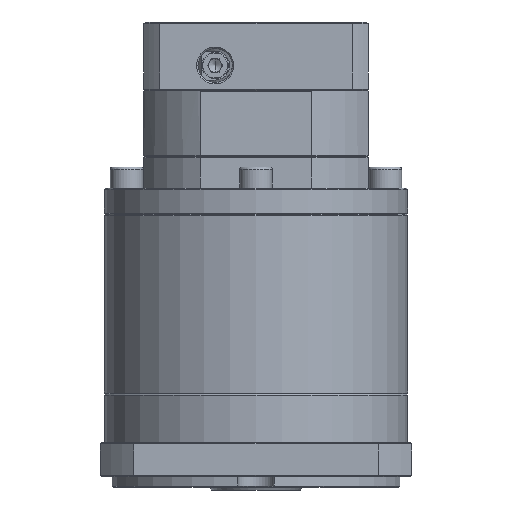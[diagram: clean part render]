
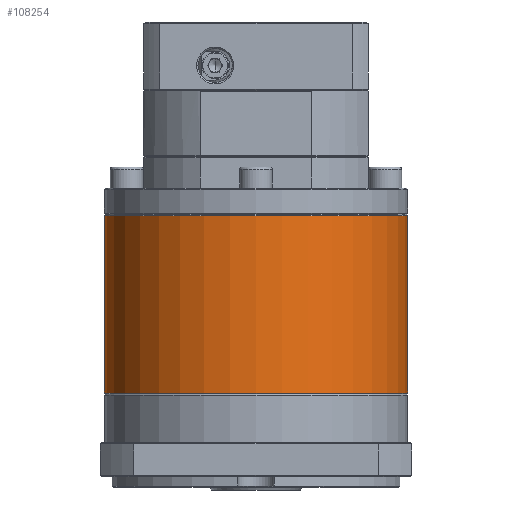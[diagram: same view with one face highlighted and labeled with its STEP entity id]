
A CAD part, front view. The second image highlights one B-rep face of the part: STEP entity #108254.
In plain terms, the highlighted cylindrical face has radius 57.5 mm (diameter 115 mm), a partial arc.
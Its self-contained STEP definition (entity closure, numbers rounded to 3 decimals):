
#1290 = CIRCLE ( 'NONE', #54193, 57.5 ) ;
#2065 = VERTEX_POINT ( 'NONE', #112048 ) ;
#16484 = ORIENTED_EDGE ( 'NONE', *, *, #40158, .T. ) ;
#16579 = CIRCLE ( 'NONE', #56621, 57.5 ) ;
#18468 = EDGE_CURVE ( 'NONE', #2065, #36935, #113877, .T. ) ;
#19227 = DIRECTION ( 'NONE',  ( 0., 0., -1. ) ) ;
#27160 = ORIENTED_EDGE ( 'NONE', *, *, #98504, .T. ) ;
#27187 = VERTEX_POINT ( 'NONE', #56386 ) ;
#30138 = CARTESIAN_POINT ( 'NONE',  ( 127.947, 93.009, -42.811 ) ) ;
#30189 = EDGE_LOOP ( 'NONE', ( #97913, #27160, #16484, #67251, #63037 ) ) ;
#31254 = AXIS2_PLACEMENT_3D ( 'NONE', #91424, #63605, #53101 ) ;
#32759 = DIRECTION ( 'NONE',  ( -1., 0., 0. ) ) ;
#34818 = VECTOR ( 'NONE', #87087, 1000. ) ;
#36935 = VERTEX_POINT ( 'NONE', #122542 ) ;
#40158 = EDGE_CURVE ( 'NONE', #27187, #2065, #1290, .T. ) ;
#52341 = DIRECTION ( 'NONE',  ( -1., 0., 0. ) ) ;
#53101 = DIRECTION ( 'NONE',  ( -1., 0., 0. ) ) ;
#54193 = AXIS2_PLACEMENT_3D ( 'NONE', #80093, #79255, #52341 ) ;
#56386 = CARTESIAN_POINT ( 'NONE',  ( 70.447, 35.509, -43.311 ) ) ;
#56621 = AXIS2_PLACEMENT_3D ( 'NONE', #63567, #100209, #32759 ) ;
#57446 = CIRCLE ( 'NONE', #31254, 57.5 ) ;
#58086 = DIRECTION ( 'NONE',  ( -1., 0., 0. ) ) ;
#61120 = FACE_OUTER_BOUND ( 'NONE', #30189, .T. ) ;
#61907 = DIRECTION ( 'NONE',  ( 0., 0., -1. ) ) ;
#63037 = ORIENTED_EDGE ( 'NONE', *, *, #79778, .T. ) ;
#63567 = CARTESIAN_POINT ( 'NONE',  ( 70.447, 93.009, -43.311 ) ) ;
#63605 = DIRECTION ( 'NONE',  ( 0., 0., 1. ) ) ;
#64104 = CARTESIAN_POINT ( 'NONE',  ( 127.947, 93.009, -43.311 ) ) ;
#66501 = CARTESIAN_POINT ( 'NONE',  ( 70.447, 93.009, -42.811 ) ) ;
#67251 = ORIENTED_EDGE ( 'NONE', *, *, #18468, .T. ) ;
#77455 = EDGE_CURVE ( 'NONE', #107231, #104268, #108806, .T. ) ;
#79255 = DIRECTION ( 'NONE',  ( 0., 0., -1. ) ) ;
#79778 = EDGE_CURVE ( 'NONE', #36935, #104268, #57446, .T. ) ;
#80093 = CARTESIAN_POINT ( 'NONE',  ( 70.447, 93.009, -43.311 ) ) ;
#82519 = CARTESIAN_POINT ( 'NONE',  ( 12.947, 93.009, -42.811 ) ) ;
#87087 = DIRECTION ( 'NONE',  ( 0., 0., -1. ) ) ;
#88374 = CARTESIAN_POINT ( 'NONE',  ( 127.947, 93.009, -110.522 ) ) ;
#89758 = CYLINDRICAL_SURFACE ( 'NONE', #108133, 57.5 ) ;
#91424 = CARTESIAN_POINT ( 'NONE',  ( 70.447, 93.009, -110.522 ) ) ;
#97913 = ORIENTED_EDGE ( 'NONE', *, *, #77455, .F. ) ;
#98504 = EDGE_CURVE ( 'NONE', #107231, #27187, #16579, .T. ) ;
#100209 = DIRECTION ( 'NONE',  ( 0., 0., -1. ) ) ;
#104268 = VERTEX_POINT ( 'NONE', #88374 ) ;
#107231 = VERTEX_POINT ( 'NONE', #64104 ) ;
#108133 = AXIS2_PLACEMENT_3D ( 'NONE', #66501, #19227, #58086 ) ;
#108254 = ADVANCED_FACE ( 'NONE', ( #61120 ), #89758, .T. ) ;
#108806 = LINE ( 'NONE', #30138, #34818 ) ;
#112048 = CARTESIAN_POINT ( 'NONE',  ( 12.947, 93.009, -43.311 ) ) ;
#113877 = LINE ( 'NONE', #82519, #119842 ) ;
#119842 = VECTOR ( 'NONE', #61907, 1000. ) ;
#122542 = CARTESIAN_POINT ( 'NONE',  ( 12.947, 93.009, -110.522 ) ) ;
